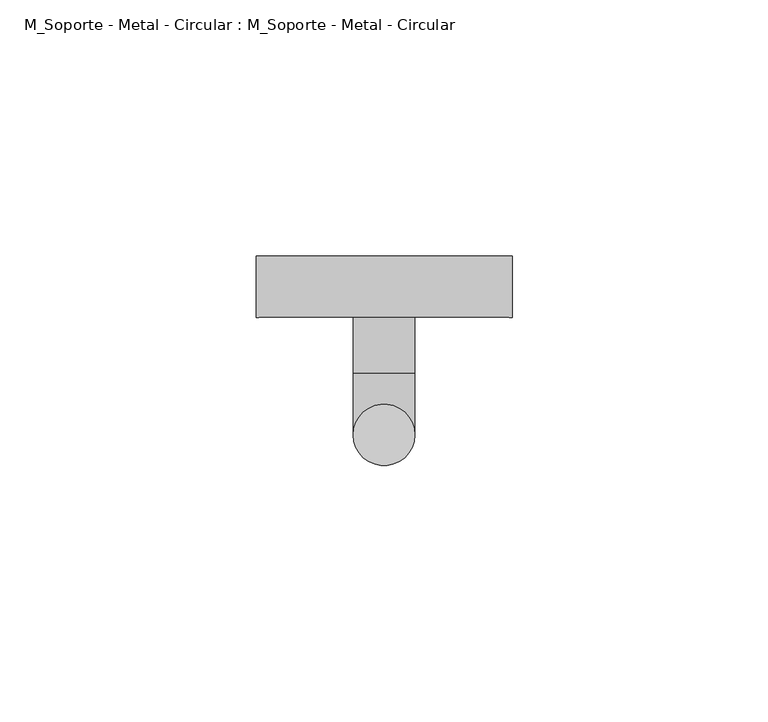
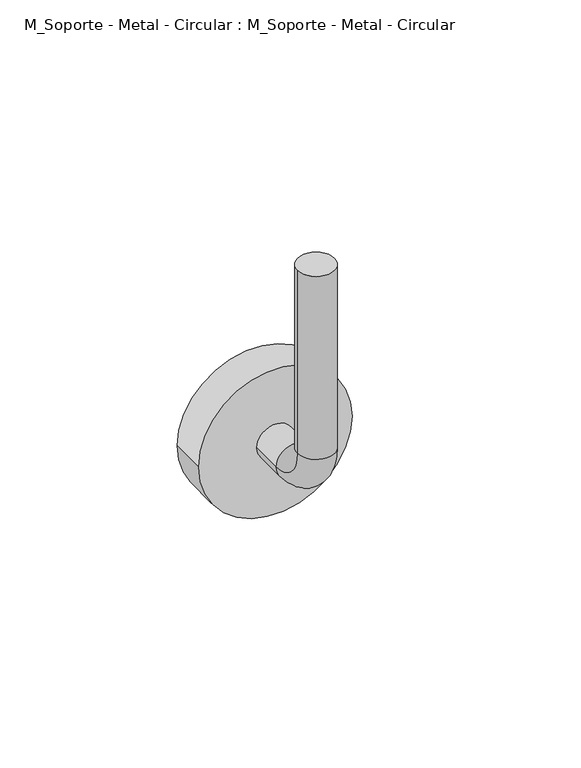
"""IFC4 building model written with IfcOpenShell, lengths in millimetres: proxy geometry, M_Soporte - Metal - Circular : M_Soporte - Metal - Circular."""

from ifc_helpers import new_model, si_unit, point, frame, frame_2d, origin, origin_with_axes, place, context, project, spatial, circle_curve, ellipse_curve, trimmed, segment, composite_curve, outline, extrude, source, transform, mapped, element, save
from ifc_brep_helpers import plane_surface, cylinder_surface, revolved_surface, advanced_brep


def m_soporte_metal_circular_m_soporte_metal_circular_edb782eb(model_context):
    return source(origin(), model_context, "Body", "SolidModel", [
        advanced_brep(
        [(-6.0, 0.0, 0.0), (6.0, 0.0, 0.0), (-6.0, 0.0, -63.0), (6.0, 0.0, -63.0), (6.0, 12.0, -75.0), (-6.0, 12.0, -75.0), (-6.0, 23.0, -75.0), (6.0, 23.0, -75.0)],
        [
            (0, 1, circle_curve(origin_with_axes(), 6.0)),
            (1, 0, circle_curve(origin_with_axes(), 6.0)),
            (0, 2),
            (2, 3, circle_curve(frame((0.0, 0.0, -63.0), z_axis=(0.0, 0.0, 1.0), x_axis=(1.0, 0.0, 0.0)), 6.0)),
            (3, 1),
            (3, 2, circle_curve(frame((0.0, 0.0, -63.0), z_axis=(0.0, 0.0, 1.0), x_axis=(1.0, 0.0, 0.0)), 6.0)),
            (4, 3, circle_curve(frame((6.0, 12.0, -63.0), z_axis=(-1.0, 0.0, 0.0), x_axis=(0.0, -1.0, 0.0)), 12.0)),
            (2, 5, circle_curve(frame((-6.0, 12.0, -63.0), z_axis=(1.0, 0.0, 0.0), x_axis=(0.0, -1.0, 0.0)), 12.0)),
            (5, 4, circle_curve(frame((0.0, 12.0, -75.0), z_axis=(0.0, -1.0, 0.0), x_axis=(1.0, 0.0, 0.0)), 6.0)),
            (4, 5, circle_curve(frame((0.0, 12.0, -75.0), z_axis=(0.0, -1.0, 0.0), x_axis=(1.0, 0.0, 0.0)), 6.0)),
            (6, 7, circle_curve(frame((0.0, 23.0, -75.0), z_axis=(0.0, 1.0, 0.0), x_axis=(1.0, 0.0, 0.0)), 6.0)),
            (7, 6, circle_curve(frame((0.0, 23.0, -75.0), z_axis=(0.0, 1.0, 0.0), x_axis=(1.0, 0.0, 0.0)), 6.0)),
            (5, 6),
            (7, 4),
        ],
        [
            plane_surface(origin_with_axes()),
            cylinder_surface(origin_with_axes(), 6.0),
            revolved_surface(trimmed(ellipse_curve(frame((0.0, 0.0, -63.0), z_axis=(0.0, 0.0, 1.0), x_axis=(1.0, 0.0, 0.0)), 6.0, 6.0), [point((-6.0, 0.0, -63.0))], [point((6.0, 0.0, -63.0))], True, "CARTESIAN"), (0.0, 12.0, -63.0), (1.0, 0.0, 0.0)),
            revolved_surface(trimmed(ellipse_curve(frame((0.0, 0.0, -63.0), z_axis=(0.0, 0.0, 1.0), x_axis=(1.0, 0.0, 0.0)), 6.0, 6.0), [point((6.0, 0.0, -63.0))], [point((-6.0, 0.0, -63.0))], True, "CARTESIAN"), (0.0, 12.0, -63.0), (1.0, 0.0, 0.0)),
            plane_surface(frame((0.0, 23.0, -75.0), z_axis=(0.0, 1.0, 0.0), x_axis=(1.0, 0.0, 0.0))),
            cylinder_surface(frame((0.0, 12.0, -75.0), z_axis=(0.0, -1.0, 0.0), x_axis=(1.0, 0.0, 0.0)), 6.0),
        ],
        [
            (0, [[1, 2]]),
            (1, [[-1, 3, 4, 5]]),
            (1, [[-2, -5, 6, -3]]),
            (2, [[7, -4, 8, 9]]),
            (3, [[-8, -6, -7, 10]]),
            (4, [[11, 12]]),
            (5, [[-9, 13, -12, 14]]),
            (5, [[-10, -14, -11, -13]]),
        ],
    ),
        extrude(outline(composite_curve([segment(trimmed(circle_curve(frame_2d((-75.0, 0.0)), 25.0), [point((-75.0, -25.0))], [point((-75.0, 25.0))], False, "CARTESIAN"), True, "CONTINUOUS"), segment(trimmed(circle_curve(frame_2d((-75.0, 0.0)), 25.0), [point((-75.0, 25.0))], [point((-75.0, -25.0))], False, "CARTESIAN"), True, "CONTINUOUS")], self_intersect=False)), frame((0.0, 23.0, 0.0), z_axis=(0.0, 1.0, 0.0), x_axis=(0.0, 0.0, 1.0)), (0.0, 0.0, 1.0), 12.0),
    ])


if __name__ == "__main__":
    model = new_model("IFC4")
    model_context = context("Model", 3, world=origin())
    ifc_project = project(units=[si_unit("LENGTHUNIT", "METRE", prefix="MILLI")], contexts=[model_context])
    site = spatial("IfcSite", under=ifc_project)
    building = spatial("IfcBuilding", under=site)
    placement = place(None, origin())
    m_soporte_metal_circular_m_soporte_metal_circular_shape = m_soporte_metal_circular_m_soporte_metal_circular_edb782eb(model_context)
    element("IfcBuildingElementProxy", 1, Name="M_Soporte - Metal - Circular : M_Soporte - Metal - Circular", ObjectType="M_Soporte - Metal - Circular : M_Soporte - Metal - Circular", at=placement, inside=building, context=model_context, shape_type="MappedRepresentation", body=[
        mapped(m_soporte_metal_circular_m_soporte_metal_circular_shape, transform((0.0, 0.0, 0.0), x_axis=(1.0, 0.0, 0.0), y_axis=(0.0, 1.0, 0.0), z_axis=(0.0, 0.0, 1.0))),
    ])
    save(model, "model.ifc")
